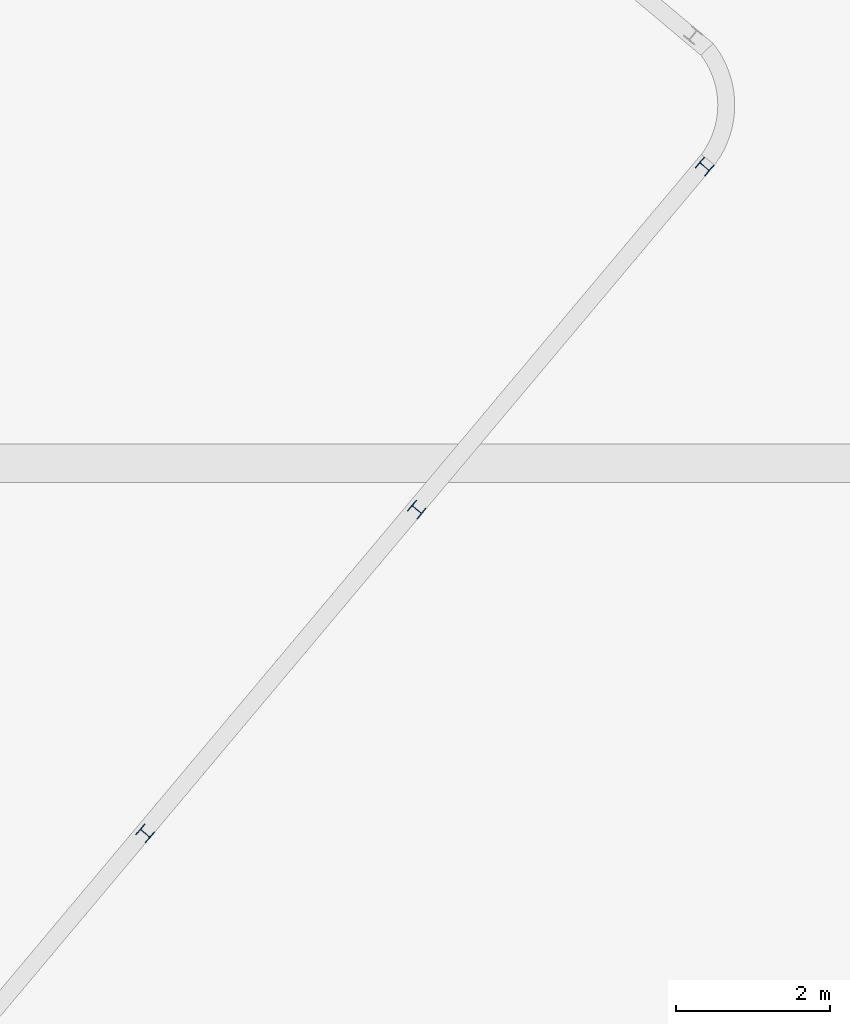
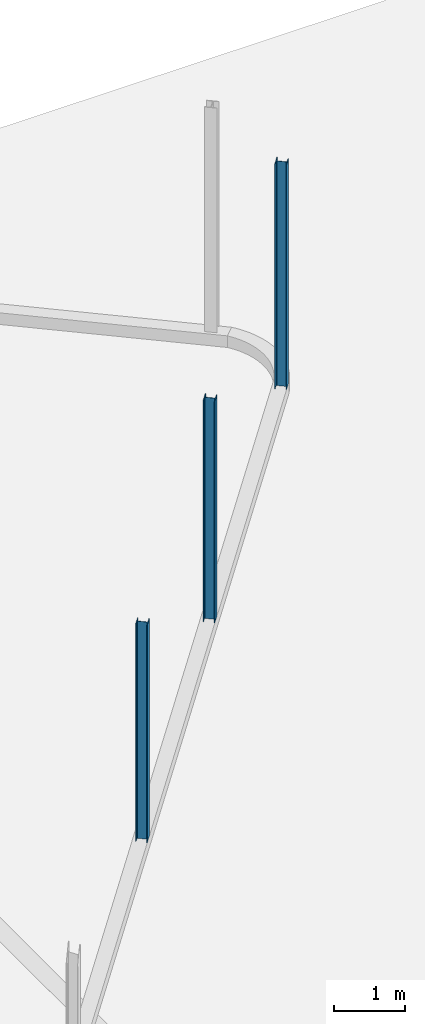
# One storey, part 2 of 11: 3 columns.
"""IFC2X3 building model written with IfcOpenShell, lengths in millimetres."""

from ifc_helpers import new_model, entity, si_unit, converted_unit, derived_unit, direction, frame, frame_2d, origin, place, context, subcontext, project, spatial, i_section, extrude, source, transform, mapped, material, type_object, type_shapes, element, save


model = new_model("IFC2X3")

# Units and contexts
model_context = context("Model", 3, precision=0.01, world=origin(), true_north=direction((6.123031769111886e-17, 1.0)))
body_context = subcontext(model_context, "Body", "Model", "MODEL_VIEW")
ifc_project = project(units=[si_unit("LENGTHUNIT", "METRE", prefix="MILLI"), si_unit("AREAUNIT", "SQUARE_METRE"), si_unit("VOLUMEUNIT", "CUBIC_METRE"), derived_unit("MASSDENSITYUNIT", [(si_unit("MASSUNIT", "GRAM", prefix="KILO"), 1), (si_unit("LENGTHUNIT", "METRE"), -3)]), si_unit("MASSUNIT", "GRAM", prefix="KILO"), converted_unit("PLANEANGLEUNIT", "DEGREE", entity("IfcPlaneAngleMeasure", 0.017453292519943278), si_unit("PLANEANGLEUNIT", "RADIAN"), dimensions=[0, 0, 0, 0, 0, 0, 0])], contexts=[model_context])

# Site, building, storey
site_placement = place(None, origin())
site = spatial("IfcSite", under=ifc_project, at=site_placement, Name="Default", CompositionType="ELEMENT")
building_placement = place(site_placement, origin())
building = spatial("IfcBuilding", under=site, at=building_placement, Name="AT constructie", CompositionType="ELEMENT")
storey_placement = place(building_placement, frame((0.0, 0.0, 7728.0)))
storey = spatial("IfcBuildingStorey", under=building, at=storey_placement, Name="02 tweede verdieping", CompositionType="ELEMENT", Elevation=7728.0)

# Columns
ifc_material = material(Name="h2_staal_S355")
column_type_1 = type_object("IfcColumnType", Name="kolom_gen_HEA180", PredefinedType="COLUMN", material=ifc_material)
shared_shape_1 = source(origin(), body_context, "Body", "SweptSolid", [
    extrude(i_section(OverallWidth=180.00000000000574, OverallDepth=170.99999999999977, WebThickness=5.999999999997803, FlangeThickness=9.500000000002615, FilletRadius=15.000000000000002, at=frame_2d((6.0964566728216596e-12, -5.329070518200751e-13), x_axis=(1.0, 0.0))), frame((47402.43609819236, 30670.456219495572, 7878.0), z_axis=(0.0, 0.0, 1.0), x_axis=(0.6427876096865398, 0.7660444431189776, 0.0)), (0.0, 0.0, 1.0), 3814.417877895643),
])
type_shapes(column_type_1, [shared_shape_1])
column_1_placement = place(storey_placement, frame((0.0, 0.0, -7728.0)))
element("IfcColumn", 1, at=column_1_placement, inside=storey, type_object=column_type_1, material=ifc_material, Name="NLRS_28_SC_TLB_kolom HEA_gen_AT:kolom_gen_HEA180", ObjectType="NLRS_28_SC_TLB_kolom HEA_gen_AT:kolom_gen_HEA180", context=body_context, shape_type="MappedRepresentation", body=[
    mapped(shared_shape_1, transform((0.0, 0.0, 0.0), scale=1.0)),
])
column_type_2 = type_object("IfcColumnType", Name="kolom_gen_HEA180", PredefinedType="COLUMN", material=ifc_material)
shared_shape_2 = source(origin(), body_context, "Body", "SweptSolid", [
    extrude(i_section(OverallWidth=180.00000000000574, OverallDepth=170.99999999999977, WebThickness=5.999999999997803, FlangeThickness=9.500000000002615, FilletRadius=15.000000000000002, at=frame_2d((6.0964566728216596e-12, -5.329070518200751e-13), x_axis=(1.0, 0.0))), frame((51146.67392461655, 35132.66510066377, 7878.0), z_axis=(0.0, 0.0, 1.0), x_axis=(0.6427876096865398, 0.7660444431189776, 0.0)), (0.0, 0.0, 1.0), 3872.9999999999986),
])
type_shapes(column_type_2, [shared_shape_2])
column_2_placement = place(storey_placement, frame((0.0, 0.0, -7728.0)))
element("IfcColumn", 2, at=column_2_placement, inside=storey, type_object=column_type_2, material=ifc_material, Name="NLRS_28_SC_TLB_kolom HEA_gen_AT:kolom_gen_HEA180", ObjectType="NLRS_28_SC_TLB_kolom HEA_gen_AT:kolom_gen_HEA180", context=body_context, shape_type="MappedRepresentation", body=[
    mapped(shared_shape_2, transform((0.0, 0.0, 0.0), scale=1.0)),
])
column_type_3 = type_object("IfcColumnType", Name="kolom_gen_HEA180", PredefinedType="COLUMN", material=ifc_material)
shared_shape_3 = source(origin(), body_context, "Body", "SweptSolid", [
    extrude(i_section(OverallWidth=180.00000000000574, OverallDepth=170.99999999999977, WebThickness=5.999999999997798, FlangeThickness=9.500000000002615, FilletRadius=15.000000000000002, at=frame_2d((2.7853275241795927e-12, -3.311129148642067e-12), x_axis=(1.0, 0.0))), frame((43867.10424491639, 26457.21178234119, 7878.0), z_axis=(0.0, 0.0, 1.0), x_axis=(0.6427876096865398, 0.7660444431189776, 0.0)), (0.0, 0.0, 1.0), 3744.9999999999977),
])
type_shapes(column_type_3, [shared_shape_3])
column_3_placement = place(storey_placement, frame((0.0, 0.0, -7728.0)))
element("IfcColumn", 3, at=column_3_placement, inside=storey, type_object=column_type_3, material=ifc_material, Name="NLRS_28_SC_TLB_kolom HEA_gen_AT:kolom_gen_HEA180", ObjectType="NLRS_28_SC_TLB_kolom HEA_gen_AT:kolom_gen_HEA180", context=body_context, shape_type="MappedRepresentation", body=[
    mapped(shared_shape_3, transform((0.0, 0.0, 0.0), scale=1.0)),
])

save(model, "model.ifc")
